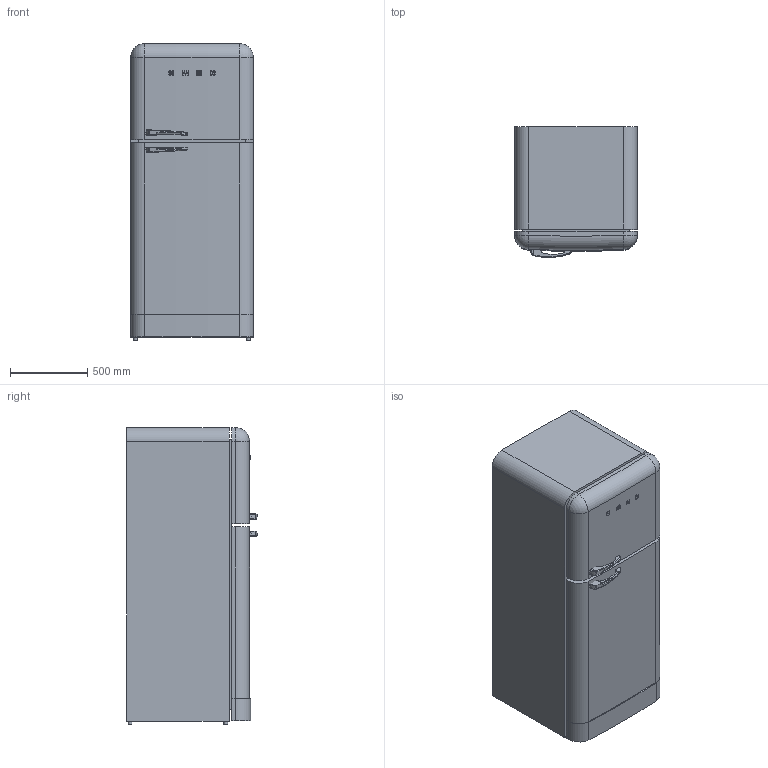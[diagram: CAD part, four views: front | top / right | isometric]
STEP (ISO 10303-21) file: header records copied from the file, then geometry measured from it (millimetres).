
FILE_DESCRIPTION(/* description */ (''),/* implementation_level */ '2;1');
FILE_NAME(/* name */ 'FAB50RBL5.stp',/* time_stamp */ '2023-07-12T11:23:53+02:00',/* author */ (''),/* organization */ (''),/* preprocessor_version */ 'ST-DEVELOPER v16',/* originating_system */ 'SIEMENS PLM Software NX 11.0',/* authorisation */ '');
FILE_SCHEMA (('AUTOMOTIVE_DESIGN { 1 0 10303 214 3 1 1 1 }'));
Length unit declared in the file: millimetre
Products named in the file (1): jona9FE88554o6m6
Bounding box: 796 x 848.15 x 1927 mm (x, y, z)
Volume: 1195223892.5 mm3; surface area: 12967004.4 mm2
Topology: 11 solids, 11 shells, 379 faces, 897 edges, 551 vertices
Faces by surface type: plane 127, cylinder 125, torus 57, bspline 45, cone 23, sphere 2
Full cylindrical faces by diameter (mm): 2 x40, 25 x4
Entity records: 12653 total; most frequent: CARTESIAN_POINT 4370, DIRECTION 1687, ORIENTED_EDGE 1622, EDGE_CURVE 811, AXIS2_PLACEMENT_3D 667, VERTEX_POINT 551, EDGE_LOOP 476, ADVANCED_FACE 379
